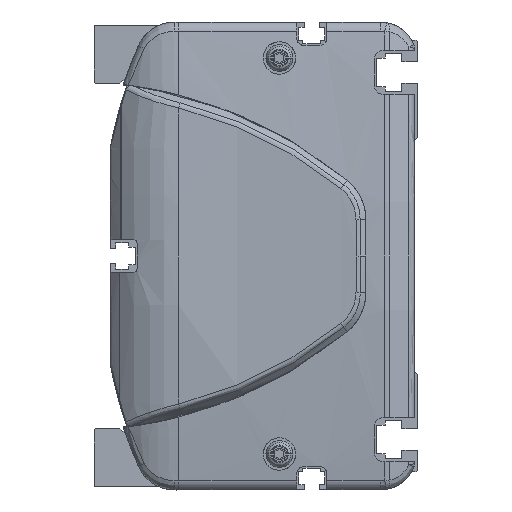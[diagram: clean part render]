
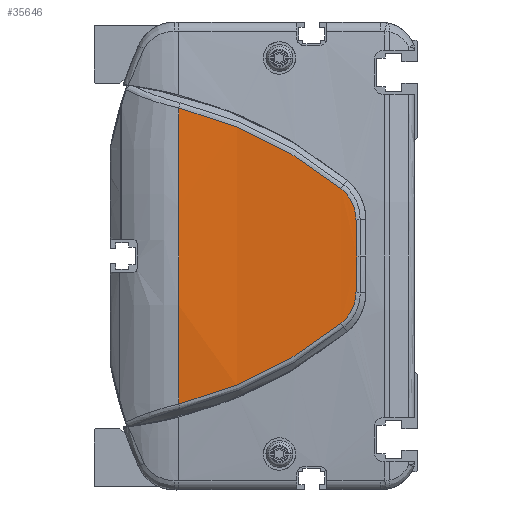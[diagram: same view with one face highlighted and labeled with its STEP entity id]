
A CAD part, left-side view. The second image highlights one B-rep face of the part: STEP entity #35646.
In plain terms, the highlighted cylindrical face has radius 500 mm (diameter 1000 mm), a partial arc.
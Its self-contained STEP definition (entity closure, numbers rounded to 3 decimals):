
#31794=CARTESIAN_POINT('',(486.,66.362,0.));
#31795=DIRECTION('',(0.,-1.,0.));
#31796=DIRECTION('',(-0.997,0.,0.082));
#31797=AXIS2_PLACEMENT_3D('',#31794,#31795,#31796);
#32691=CARTESIAN_POINT('',(-13.648,21.313,
-18.759));
#32692=CARTESIAN_POINT('',(-13.449,27.904,
-24.058));
#32693=CARTESIAN_POINT('',(-12.934,42.195,
-33.27));
#32694=CARTESIAN_POINT('',(-12.471,58.156,
-39.127));
#32695=CARTESIAN_POINT('',(-12.306,66.362,
-41.121));
#32697=CARTESIAN_POINT('',(-12.306,66.362,
41.121));
#32698=CARTESIAN_POINT('',(-12.471,58.156,
39.127));
#32699=CARTESIAN_POINT('',(-12.934,42.195,
33.27));
#32700=CARTESIAN_POINT('',(-13.449,27.904,
24.058));
#32701=CARTESIAN_POINT('',(-13.648,21.313,
18.759));
#32703=CARTESIAN_POINT('',(-13.648,21.313,
18.759));
#32704=CARTESIAN_POINT('',(-13.686,20.035,
17.736));
#32705=CARTESIAN_POINT('',(-13.779,17.936,
15.107));
#32706=CARTESIAN_POINT('',(-13.863,17.152,
11.827));
#32707=CARTESIAN_POINT('',(-13.896,17.124,
10.178));
#32709=CARTESIAN_POINT('',(-13.896,17.124,
10.178));
#32710=CARTESIAN_POINT('',(-13.92,17.107,
9.023));
#32711=CARTESIAN_POINT('',(-13.959,17.067,
6.729));
#32712=CARTESIAN_POINT('',(-13.993,16.979,
3.335));
#32713=CARTESIAN_POINT('',(-14.,16.898,
1.106));
#32714=CARTESIAN_POINT('',(-14.,16.849,
0.));
#32716=CARTESIAN_POINT('',(-14.,16.849,
0.));
#32717=CARTESIAN_POINT('',(-14.,16.898,
-1.106));
#32718=CARTESIAN_POINT('',(-13.993,16.979,
-3.335));
#32719=CARTESIAN_POINT('',(-13.959,17.067,
-6.729));
#32720=CARTESIAN_POINT('',(-13.92,17.107,
-9.025));
#32721=CARTESIAN_POINT('',(-13.896,17.124,
-10.18));
#32723=CARTESIAN_POINT('',(-13.896,17.124,
-10.18));
#32724=CARTESIAN_POINT('',(-13.863,17.152,
-11.828));
#32725=CARTESIAN_POINT('',(-13.779,17.937,
-15.109));
#32726=CARTESIAN_POINT('',(-13.686,20.035,
-17.736));
#32727=CARTESIAN_POINT('',(-13.648,21.313,
-18.759));
#33409=VERTEX_POINT('',#32691);
#33410=VERTEX_POINT('',#32695);
#33411=CARTESIAN_POINT('',(-12.306,66.362,
41.121));
#33412=VERTEX_POINT('',#33411);
#33413=VERTEX_POINT('',#32701);
#33414=VERTEX_POINT('',#32707);
#33415=VERTEX_POINT('',#32714);
#33416=VERTEX_POINT('',#32721);
#35627=CARTESIAN_POINT('',(486.,8.006,0.));
#35628=DIRECTION('',(0.,1.,0.));
#35629=DIRECTION('',(1.,0.,0.));
#35630=AXIS2_PLACEMENT_3D('',#35627,#35628,#35629);
#35631=CYLINDRICAL_SURFACE('',#35630,500.);
#35633=ORIENTED_EDGE('',*,*,#35632,.T.);
#35634=ORIENTED_EDGE('',*,*,#34267,.F.);
#35636=ORIENTED_EDGE('',*,*,#35635,.T.);
#35638=ORIENTED_EDGE('',*,*,#35637,.T.);
#35640=ORIENTED_EDGE('',*,*,#35639,.T.);
#35642=ORIENTED_EDGE('',*,*,#35641,.T.);
#35643=ORIENTED_EDGE('',*,*,#35617,.T.);
#35644=EDGE_LOOP('',(#35633,#35634,#35636,#35638,#35640,#35642,#35643));
#35645=FACE_OUTER_BOUND('',#35644,.F.);
#35646=ADVANCED_FACE('',(#35645),#35631,.T.);
#31798=CIRCLE('',#31797,500.);
#32696=B_SPLINE_CURVE_WITH_KNOTS('',3,(#32691,#32692,#32693,#32694,#32695),
.UNSPECIFIED.,.F.,.F.,(4,1,4),(0.,0.5,1.),.UNSPECIFIED.);
#32702=B_SPLINE_CURVE_WITH_KNOTS('',3,(#32697,#32698,#32699,#32700,#32701),
.UNSPECIFIED.,.F.,.F.,(4,1,4),(0.,0.5,1.),.UNSPECIFIED.);
#32708=B_SPLINE_CURVE_WITH_KNOTS('',3,(#32703,#32704,#32705,#32706,#32707),
.UNSPECIFIED.,.F.,.F.,(4,1,4),(0.,0.5,1.),.UNSPECIFIED.);
#32715=B_SPLINE_CURVE_WITH_KNOTS('',3,(#32709,#32710,#32711,#32712,#32713,
#32714),.UNSPECIFIED.,.F.,.F.,(4,1,1,4),(0.,0.333,
0.667,1.),.UNSPECIFIED.);
#32722=B_SPLINE_CURVE_WITH_KNOTS('',3,(#32716,#32717,#32718,#32719,#32720,
#32721),.UNSPECIFIED.,.F.,.F.,(4,1,1,4),(0.,0.333,
0.667,1.),.UNSPECIFIED.);
#32728=B_SPLINE_CURVE_WITH_KNOTS('',3,(#32723,#32724,#32725,#32726,#32727),
.UNSPECIFIED.,.F.,.F.,(4,1,4),(0.,0.5,1.),.UNSPECIFIED.);
#34267=EDGE_CURVE('',#33412,#33410,#31798,.T.);
#35617=EDGE_CURVE('',#33416,#33409,#32728,.T.);
#35632=EDGE_CURVE('',#33409,#33410,#32696,.T.);
#35635=EDGE_CURVE('',#33412,#33413,#32702,.T.);
#35637=EDGE_CURVE('',#33413,#33414,#32708,.T.);
#35639=EDGE_CURVE('',#33414,#33415,#32715,.T.);
#35641=EDGE_CURVE('',#33415,#33416,#32722,.T.);
